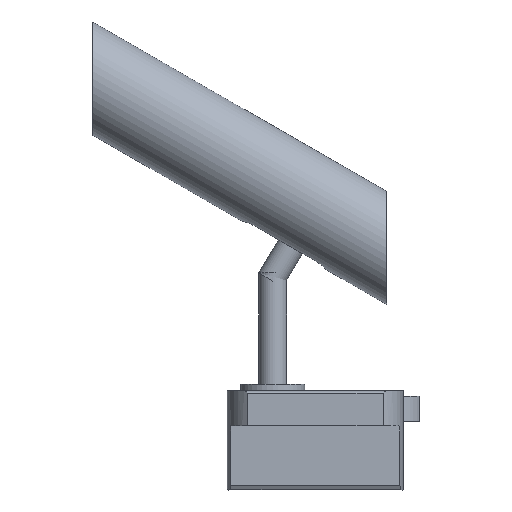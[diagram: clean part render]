
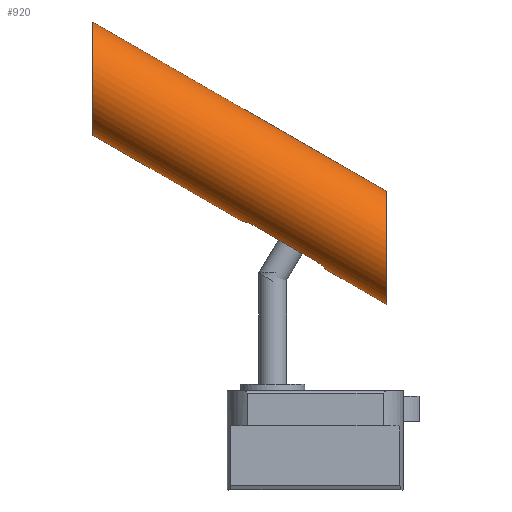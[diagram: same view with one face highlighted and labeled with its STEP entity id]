
A CAD part, left-side view. The second image highlights one B-rep face of the part: STEP entity #920.
In plain terms, the highlighted cylindrical face has radius 19.495 mm (diameter 38.989 mm), a partial arc.
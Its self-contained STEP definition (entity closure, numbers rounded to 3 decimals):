
#50=ELLIPSE('',#996,22.511,19.495);
#54=ELLIPSE('',#1001,22.511,19.495);
#106=B_SPLINE_CURVE_WITH_KNOTS('',3,(#1446,#1447,#1448,#1449,#1450,#1451,
#1452,#1453,#1454,#1455,#1456,#1457,#1458,#1459,#1460,#1461,#1462,#1463),
 .UNSPECIFIED.,.F.,.F.,(4,2,2,2,2,2,2,2,4),(17.671,18.776,
19.88,20.984,22.089,23.192,24.295,
25.398,26.327),.UNSPECIFIED.);
#107=B_SPLINE_CURVE_WITH_KNOTS('',3,(#1475,#1476,#1477,#1478,#1479,#1480,
#1481,#1482,#1483,#1484,#1485,#1486,#1487,#1488,#1489,#1490,#1491,#1492),
 .UNSPECIFIED.,.F.,.F.,(4,2,2,2,2,2,2,2,4),(9.015,9.944,
11.048,12.151,13.255,14.359,15.463,
16.567,17.671),.UNSPECIFIED.);
#121=CYLINDRICAL_SURFACE('',#1009,19.495);
#151=FACE_OUTER_BOUND('',#220,.T.);
#220=EDGE_LOOP('',(#647,#648,#649,#650,#651,#652,#653,#654));
#283=LINE('',#1469,#346);
#287=LINE('',#1541,#350);
#288=LINE('',#1542,#351);
#289=LINE('',#1543,#352);
#346=VECTOR('',#1124,304.8);
#350=VECTOR('',#1164,304.8);
#351=VECTOR('',#1165,304.8);
#352=VECTOR('',#1166,304.8);
#408=VERTEX_POINT('',#1424);
#409=VERTEX_POINT('',#1445);
#411=VERTEX_POINT('',#1468);
#413=VERTEX_POINT('',#1474);
#414=VERTEX_POINT('',#1516);
#415=VERTEX_POINT('',#1517);
#418=VERTEX_POINT('',#1525);
#419=VERTEX_POINT('',#1526);
#489=EDGE_CURVE('',#409,#408,#106,.T.);
#492=EDGE_CURVE('',#411,#409,#283,.T.);
#495=EDGE_CURVE('',#413,#411,#107,.T.);
#498=EDGE_CURVE('',#414,#415,#50,.T.);
#502=EDGE_CURVE('',#418,#419,#54,.T.);
#509=EDGE_CURVE('',#413,#415,#287,.T.);
#510=EDGE_CURVE('',#418,#408,#288,.T.);
#511=EDGE_CURVE('',#414,#419,#289,.T.);
#647=ORIENTED_EDGE('',*,*,#498,.T.);
#648=ORIENTED_EDGE('',*,*,#509,.F.);
#649=ORIENTED_EDGE('',*,*,#495,.T.);
#650=ORIENTED_EDGE('',*,*,#492,.T.);
#651=ORIENTED_EDGE('',*,*,#489,.T.);
#652=ORIENTED_EDGE('',*,*,#510,.F.);
#653=ORIENTED_EDGE('',*,*,#502,.T.);
#654=ORIENTED_EDGE('',*,*,#511,.F.);
#920=ADVANCED_FACE('',(#151),#121,.T.);
#996=AXIS2_PLACEMENT_3D('',#1518,#1135,#1136);
#1001=AXIS2_PLACEMENT_3D('',#1527,#1145,#1146);
#1009=AXIS2_PLACEMENT_3D('',#1540,#1162,#1163);
#1124=DIRECTION('',(-0.866,0.,-0.499));
#1135=DIRECTION('center_axis',(-1.,0.,0.001));
#1136=DIRECTION('ref_axis',(-0.001,0.,
-1.));
#1145=DIRECTION('center_axis',(1.,0.,-0.001));
#1146=DIRECTION('ref_axis',(-0.001,0.,
-1.));
#1162=DIRECTION('center_axis',(-0.866,0.,-0.499));
#1163=DIRECTION('ref_axis',(0.499,0.,-0.866));
#1164=DIRECTION('',(0.866,0.,0.499));
#1165=DIRECTION('',(0.866,0.,0.499));
#1166=DIRECTION('',(-0.866,0.,-0.499));
#1424=CARTESIAN_POINT('',(-21.545,0.,87.583));
#1445=CARTESIAN_POINT('',(-16.917,5.65,91.214));
#1446=CARTESIAN_POINT('Ctrl Pts',(-16.917,5.65,91.214));
#1447=CARTESIAN_POINT('Ctrl Pts',(-17.236,5.65,91.03));
#1448=CARTESIAN_POINT('Ctrl Pts',(-17.56,5.615,90.831));
#1449=CARTESIAN_POINT('Ctrl Pts',(-18.192,5.466,90.417));
#1450=CARTESIAN_POINT('Ctrl Pts',(-18.5,5.353,90.201));
#1451=CARTESIAN_POINT('Ctrl Pts',(-19.08,5.055,89.771));
#1452=CARTESIAN_POINT('Ctrl Pts',(-19.353,4.87,89.557));
#1453=CARTESIAN_POINT('Ctrl Pts',(-19.85,4.443,89.15));
#1454=CARTESIAN_POINT('Ctrl Pts',(-20.074,4.2,88.956));
#1455=CARTESIAN_POINT('Ctrl Pts',(-20.467,3.685,88.607));
#1456=CARTESIAN_POINT('Ctrl Pts',(-20.649,3.395,88.439));
#1457=CARTESIAN_POINT('Ctrl Pts',(-20.968,2.761,88.138));
#1458=CARTESIAN_POINT('Ctrl Pts',(-21.105,2.418,88.006));
#1459=CARTESIAN_POINT('Ctrl Pts',(-21.325,1.701,87.791));
#1460=CARTESIAN_POINT('Ctrl Pts',(-21.408,1.326,87.709));
#1461=CARTESIAN_POINT('Ctrl Pts',(-21.51,0.632,87.612));
#1462=CARTESIAN_POINT('Ctrl Pts',(-21.536,0.313,87.587));
#1463=CARTESIAN_POINT('Ctrl Pts',(-21.545,0.,
87.583));
#1468=CARTESIAN_POINT('',(6.96,5.65,104.97));
#1469=CARTESIAN_POINT('',(6.96,5.65,104.97));
#1474=CARTESIAN_POINT('',(12.423,0.,107.152));
#1475=CARTESIAN_POINT('Ctrl Pts',(12.423,0.,107.152));
#1476=CARTESIAN_POINT('Ctrl Pts',(12.415,0.313,107.147));
#1477=CARTESIAN_POINT('Ctrl Pts',(12.381,0.632,107.136));
#1478=CARTESIAN_POINT('Ctrl Pts',(12.245,1.327,107.097));
#1479=CARTESIAN_POINT('Ctrl Pts',(12.133,1.701,107.066));
#1480=CARTESIAN_POINT('Ctrl Pts',(11.836,2.418,106.984));
#1481=CARTESIAN_POINT('Ctrl Pts',(11.653,2.762,106.932));
#1482=CARTESIAN_POINT('Ctrl Pts',(11.232,3.396,106.806));
#1483=CARTESIAN_POINT('Ctrl Pts',(10.995,3.687,106.733));
#1484=CARTESIAN_POINT('Ctrl Pts',(10.496,4.201,106.568));
#1485=CARTESIAN_POINT('Ctrl Pts',(10.216,4.443,106.471));
#1486=CARTESIAN_POINT('Ctrl Pts',(9.614,4.87,106.246));
#1487=CARTESIAN_POINT('Ctrl Pts',(9.292,5.055,106.117));
#1488=CARTESIAN_POINT('Ctrl Pts',(8.63,5.353,105.831));
#1489=CARTESIAN_POINT('Ctrl Pts',(8.289,5.466,105.672));
#1490=CARTESIAN_POINT('Ctrl Pts',(7.614,5.615,105.334));
#1491=CARTESIAN_POINT('Ctrl Pts',(7.279,5.65,105.154));
#1492=CARTESIAN_POINT('Ctrl Pts',(6.96,5.65,104.97));
#1516=CARTESIAN_POINT('',(71.701,0.,186.299));
#1517=CARTESIAN_POINT('',(71.658,0.,141.278));
#1518=CARTESIAN_POINT('Origin',(71.68,0.,
163.788));
#1525=CARTESIAN_POINT('',(-45.304,0.,73.895));
#1526=CARTESIAN_POINT('',(-45.261,0.,118.916));
#1527=CARTESIAN_POINT('Origin',(-45.283,0.,
96.406));
#1540=CARTESIAN_POINT('Origin',(71.68,0.,
163.788));
#1541=CARTESIAN_POINT('',(12.423,0.,107.152));
#1542=CARTESIAN_POINT('',(-45.304,0.,73.895));
#1543=CARTESIAN_POINT('',(71.701,0.,186.299));
